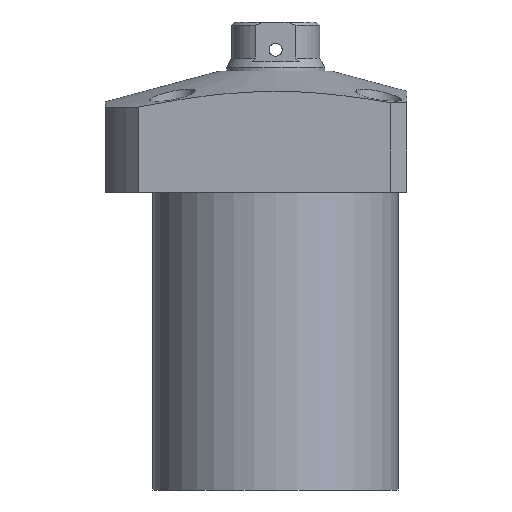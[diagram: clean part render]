
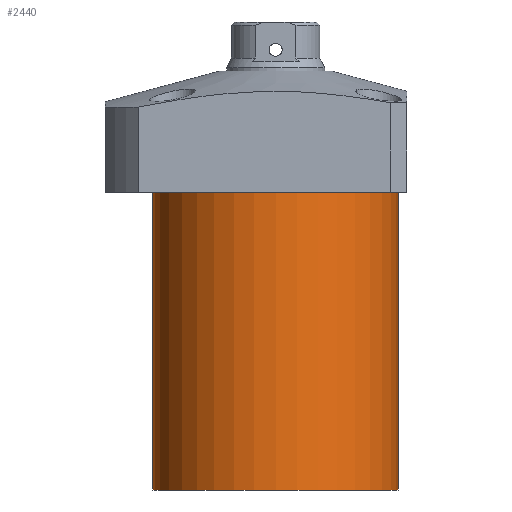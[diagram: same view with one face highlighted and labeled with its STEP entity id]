
A CAD part, front view. The second image highlights one B-rep face of the part: STEP entity #2440.
In plain terms, the highlighted cylindrical face has radius 37.5 mm (diameter 75 mm), a partial arc.
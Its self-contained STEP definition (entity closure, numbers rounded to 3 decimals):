
#1 = CARTESIAN_POINT ( 'NONE',  ( -37.5, 0., -18.5 ) ) ;
#110 = AXIS2_PLACEMENT_3D ( 'NONE', #762, #2288, #1646 ) ;
#274 = CARTESIAN_POINT ( 'NONE',  ( 37.5, 0., -18.5 ) ) ;
#278 = AXIS2_PLACEMENT_3D ( 'NONE', #912, #489, #2701 ) ;
#300 = ORIENTED_EDGE ( 'NONE', *, *, #1093, .F. ) ;
#468 = VERTEX_POINT ( 'NONE', #274 ) ;
#489 = DIRECTION ( 'NONE',  ( 0., 0., -1. ) ) ;
#544 = CIRCLE ( 'NONE', #110, 37.5 ) ;
#689 = CIRCLE ( 'NONE', #278, 37.5 ) ;
#712 = DIRECTION ( 'NONE',  ( 0., 0., 1. ) ) ;
#749 = CARTESIAN_POINT ( 'NONE',  ( 37.5, 0., -109.5 ) ) ;
#762 = CARTESIAN_POINT ( 'NONE',  ( 0., 0., -18.5 ) ) ;
#901 = EDGE_CURVE ( 'NONE', #2692, #2420, #689, .T. ) ;
#912 = CARTESIAN_POINT ( 'NONE',  ( 0., 0., -109.5 ) ) ;
#999 = CARTESIAN_POINT ( 'NONE',  ( -37.5, 0., -109.5 ) ) ;
#1011 = DIRECTION ( 'NONE',  ( 1., 0., 0. ) ) ;
#1093 = EDGE_CURVE ( 'NONE', #2420, #2187, #1821, .T. ) ;
#1105 = VECTOR ( 'NONE', #712, 1000. ) ;
#1430 = CARTESIAN_POINT ( 'NONE',  ( -37.5, 0., -109.5 ) ) ;
#1447 = DIRECTION ( 'NONE',  ( 0., 0., 1. ) ) ;
#1646 = DIRECTION ( 'NONE',  ( 1., 0., 0. ) ) ;
#1661 = DIRECTION ( 'NONE',  ( 0., 0., 1. ) ) ;
#1737 = ORIENTED_EDGE ( 'NONE', *, *, #2473, .T. ) ;
#1821 = LINE ( 'NONE', #1430, #2565 ) ;
#2084 = CARTESIAN_POINT ( 'NONE',  ( 0., 0., -109.5 ) ) ;
#2187 = VERTEX_POINT ( 'NONE', #1 ) ;
#2288 = DIRECTION ( 'NONE',  ( 0., 0., -1. ) ) ;
#2320 = LINE ( 'NONE', #2424, #1105 ) ;
#2420 = VERTEX_POINT ( 'NONE', #999 ) ;
#2421 = ORIENTED_EDGE ( 'NONE', *, *, #2501, .T. ) ;
#2424 = CARTESIAN_POINT ( 'NONE',  ( 37.5, 0., -109.5 ) ) ;
#2440 = ADVANCED_FACE ( 'NONE', ( #2496 ), #2595, .T. ) ;
#2473 = EDGE_CURVE ( 'NONE', #468, #2187, #544, .T. ) ;
#2496 = FACE_OUTER_BOUND ( 'NONE', #2652, .T. ) ;
#2501 = EDGE_CURVE ( 'NONE', #2692, #468, #2320, .T. ) ;
#2565 = VECTOR ( 'NONE', #1447, 1000. ) ;
#2595 = CYLINDRICAL_SURFACE ( 'NONE', #2631, 37.5 ) ;
#2631 = AXIS2_PLACEMENT_3D ( 'NONE', #2084, #1661, #1011 ) ;
#2650 = ORIENTED_EDGE ( 'NONE', *, *, #901, .F. ) ;
#2652 = EDGE_LOOP ( 'NONE', ( #300, #2650, #2421, #1737 ) ) ;
#2692 = VERTEX_POINT ( 'NONE', #749 ) ;
#2701 = DIRECTION ( 'NONE',  ( -1., 0., 0. ) ) ;
